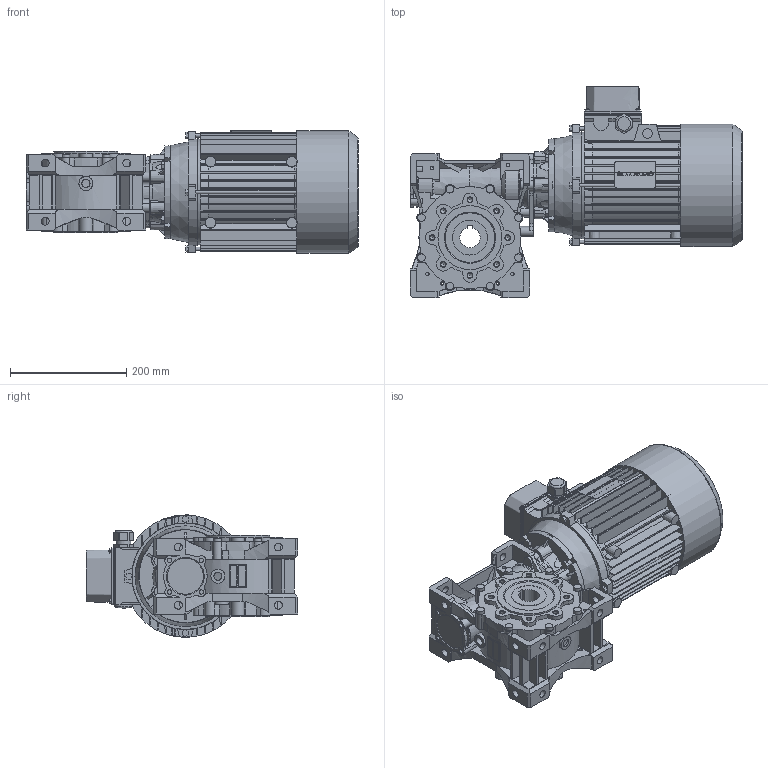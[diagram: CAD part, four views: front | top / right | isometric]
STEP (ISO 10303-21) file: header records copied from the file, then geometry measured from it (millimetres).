
FILE_DESCRIPTION(/* description */ ('STEP AP203'),/* implementation_level */ '2;1');
FILE_NAME(/* name */ 'NMRVP_090_160x28_35_NO_NO_-_-_NO_-_-_-_NO_TP_112_112MR41-_-----IC411NONO------STD',/* time_stamp */ '2025-12-05T01:33:49+01:00',/* author */ ('License CC BY-ND 4.0'),/* organization */ ('CADENAS'),/* preprocessor_version */ 'ST-DEVELOPER v20',/* originating_system */ 'PARTsolutions',/* authorisation */ ' ');
FILE_SCHEMA (('CONFIG_CONTROL_DESIGN'));
Length unit declared in the file: millimetre
Products named in the file (13): NMRVP 090 160x28 35 NO NO - - NO - - - NO TP 112 112MR41-(-----IC411N
ONO------STD); W.090.01.M; 090-35 (140); W.090.14.28.M-p; 90100/112 B14; FLANGIA_TP112B14-; CARCASSA_TP112MR4112IC411B1428X60NONO--; COPRIMORSETTIERA_TP112A002; PRESSACAVO_3; COP_TP_112MR4_IC411_NO_-_-_-_-_STD; TIPPO_25; ALBERO_TP11228X60NO; 90-50
Assembly tree (12 placements, depth 2):
  NMRVP 090 160x28 35 NO NO - - NO - - - NO TP 112 112MR41-(-----IC411N
ONO------STD)
    W.090.01.M
    090-35 (140)
    W.090.14.28.M-p
    90100/112 B14
    FLANGIA_TP112B14-
    CARCASSA_TP112MR4112IC411B1428X60NONO--
    COPRIMORSETTIERA_TP112A002
    PRESSACAVO_3
    COP_TP_112MR4_IC411_NO_-_-_-_-_STD
    TIPPO_25
    ALBERO_TP11228X60NO
    90-50
Bounding box: 570.5 x 363.1 x 211.06 mm (x, y, z)
Volume: 14962080 mm3; surface area: 1210429.4 mm2
Topology: 12 solids, 14 shells, 3389 faces, 9298 edges, 6131 vertices
Faces by surface type: plane 1804, cylinder 1342, cone 232, torus 5, sphere 5, bspline 1
Full cylindrical faces by diameter (mm): 1.8 x1, 2.02 x1, 5.5 x2, 6 x16, 7.45 x16, 8 x12, 8.376 x17, 10.5 x1, 13 x8, 13.4 x14, 14 x4, 16 x2, 24 x2, 25 x3, 28 x1, 29 x1, 30 x2, 31 x1, 45 x1, 50 x4, 58 x1, 60 x1, 75 x2, 79 x1, 90 x2, 99 x1, 110 x3, 178 x2, 183 x2, 210.4 x1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
Entity records: 107887 total; most frequent: CARTESIAN_POINT 20299, DIRECTION 18633, ORIENTED_EDGE 18084, EDGE_CURVE 9042, AXIS2_PLACEMENT_3D 6680, VERTEX_POINT 6081, LINE 5273, VECTOR 5273
